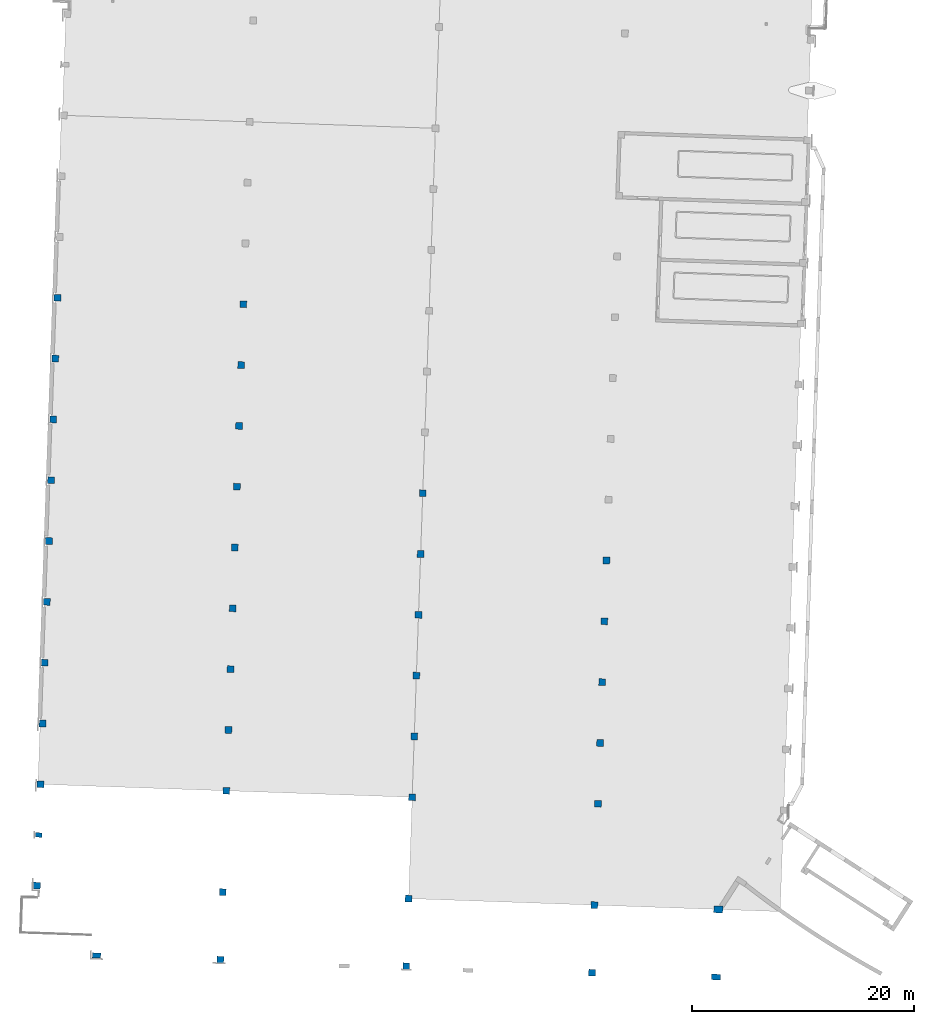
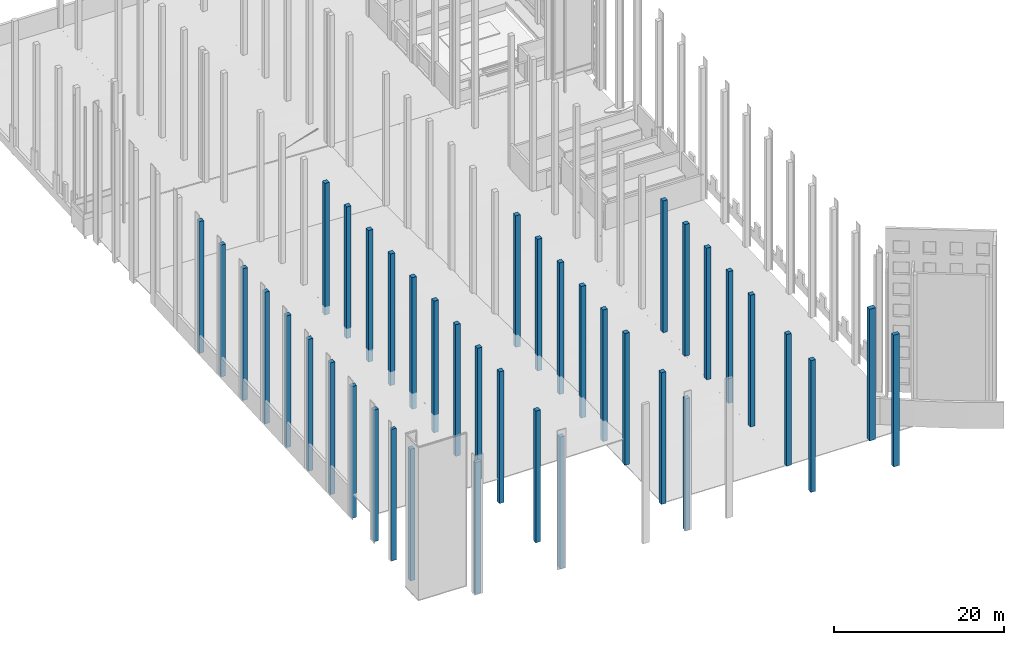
# One storey, part 1 of 44: 40 columns.
"""IFC2X3 building model written with IfcOpenShell, lengths in feet."""

from ifc_helpers import new_model, entity, si_unit, converted_unit, derived_unit, direction, frame, frame_2d, origin, origin_2d_with_axis, place, context, subcontext, project, spatial, rectangle, extrude, source, transform, mapped, material, type_object, type_shapes, element, save


model = new_model("IFC2X3")

# Units and contexts
model_context = context("Model", 3, precision=0.0001, world=origin(), true_north=direction((0.999390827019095, 0.0348994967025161)))
body_context = subcontext(model_context, "Body", "Model", "MODEL_VIEW")
ifc_project = project(units=[converted_unit("LENGTHUNIT", "FOOT", entity("IfcRatioMeasure", 0.3048), si_unit("LENGTHUNIT", "METRE"), dimensions=[1, 0, 0, 0, 0, 0, 0]), converted_unit("AREAUNIT", "SQUARE FOOT", entity("IfcRatioMeasure", 0.09290304), si_unit("AREAUNIT", "SQUARE_METRE"), dimensions=[2, 0, 0, 0, 0, 0, 0]), converted_unit("VOLUMEUNIT", "CUBIC FOOT", entity("IfcRatioMeasure", 0.028316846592), si_unit("VOLUMEUNIT", "CUBIC_METRE"), dimensions=[3, 0, 0, 0, 0, 0, 0]), converted_unit("PLANEANGLEUNIT", "DEGREE", entity("IfcRatioMeasure", 0.0174532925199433), si_unit("PLANEANGLEUNIT", "RADIAN"), dimensions=[0, 0, 0, 0, 0, 0, 0]), si_unit("MASSUNIT", "GRAM", prefix="KILO"), si_unit("TIMEUNIT", "SECOND"), si_unit("FREQUENCYUNIT", "HERTZ"), si_unit("THERMODYNAMICTEMPERATUREUNIT", "DEGREE_CELSIUS"), derived_unit("THERMALTRANSMITTANCEUNIT", [(si_unit("MASSUNIT", "GRAM", prefix="KILO"), 1), (si_unit("THERMODYNAMICTEMPERATUREUNIT", "KELVIN"), -1), (si_unit("TIMEUNIT", "SECOND"), -3)]), derived_unit("VOLUMETRICFLOWRATEUNIT", [(si_unit("LENGTHUNIT", "METRE"), 3), (si_unit("TIMEUNIT", "SECOND"), -1)]), si_unit("ELECTRICCURRENTUNIT", "AMPERE"), si_unit("ELECTRICVOLTAGEUNIT", "VOLT"), si_unit("POWERUNIT", "WATT"), si_unit("FORCEUNIT", "NEWTON"), si_unit("ILLUMINANCEUNIT", "LUX"), si_unit("LUMINOUSFLUXUNIT", "LUMEN"), si_unit("LUMINOUSINTENSITYUNIT", "CANDELA"), derived_unit("USERDEFINED", [(si_unit("MASSUNIT", "GRAM", prefix="KILO"), -1), (si_unit("LENGTHUNIT", "METRE"), -2), (si_unit("TIMEUNIT", "SECOND"), 3), (si_unit("LUMINOUSFLUXUNIT", "LUMEN"), 1)]), derived_unit("LINEARVELOCITYUNIT", [(si_unit("LENGTHUNIT", "METRE"), 1), (si_unit("TIMEUNIT", "SECOND"), -1)]), si_unit("PRESSUREUNIT", "PASCAL"), derived_unit("USERDEFINED", [(si_unit("LENGTHUNIT", "METRE"), -2), (si_unit("MASSUNIT", "GRAM", prefix="KILO"), 1), (si_unit("TIMEUNIT", "SECOND"), -2)])], contexts=[model_context])

# Site, building, storey
site_placement = place(None, frame((892.518771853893, 322.38689265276, 0.00393700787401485), z_axis=(0.0, 0.0, 1.0), x_axis=(0.0348994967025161, 0.999390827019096, 0.0)))
site = spatial("IfcSite", under=ifc_project, at=site_placement, Name="Default", CompositionType="ELEMENT")
building_placement = place(site_placement, origin())
building = spatial("IfcBuilding", under=site, at=building_placement, CompositionType="ELEMENT")
storey_placement = place(building_placement, frame((0.0, 0.0, 544.75)))
storey = spatial("IfcBuildingStorey", under=building, at=storey_placement, Name="Exist Garage - Ground Level", CompositionType="ELEMENT", Elevation=544.75)

# Columns
ifc_material = material(Name="Concrete - Cast-in-Place Concrete")
column_type_1 = type_object("IfcColumnType", Name="24 x 24", PredefinedType="COLUMN", material=ifc_material)
shared_shape_1 = source(origin(), body_context, "Body", "SweptSolid", [
    extrude(rectangle(XDim=2.0, YDim=2.0, at=origin_2d_with_axis()), frame((3.92725423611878, 456.76395347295, 544.75), z_axis=(0.0, 0.0, 1.0), x_axis=(0.0, -1.0, 0.0)), (0.0, 0.0, 1.0), 62.25),
])
type_shapes(column_type_1, [shared_shape_1])
column_1_placement = place(storey_placement, frame((0.0, 0.0, -544.75)))
element("IfcColumn", 1, at=column_1_placement, inside=storey, type_object=column_type_1, material=ifc_material, Name="Concrete-Square-Column:24 x 24", ObjectType="24 x 24", context=body_context, shape_type="MappedRepresentation", body=[
    mapped(shared_shape_1, transform((0.0, 0.0, 0.0), scale=1.0)),
])
column_type_2 = type_object("IfcColumnType", Name="24 x 24", PredefinedType="COLUMN", material=ifc_material)
shared_shape_2 = source(origin(), body_context, "Body", "SweptSolid", [
    extrude(rectangle(XDim=2.0, YDim=2.0, at=origin_2d_with_axis()), frame((-14.0727457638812, 456.76395347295, 544.75), z_axis=(0.0, 0.0, 1.0), x_axis=(0.0, -1.0, 0.0)), (0.0, 0.0, 1.0), 62.25),
])
type_shapes(column_type_2, [shared_shape_2])
column_2_placement = place(storey_placement, frame((0.0, 0.0, -544.75)))
element("IfcColumn", 2, at=column_2_placement, inside=storey, type_object=column_type_2, material=ifc_material, Name="Concrete-Square-Column:24 x 24", ObjectType="24 x 24", context=body_context, shape_type="MappedRepresentation", body=[
    mapped(shared_shape_2, transform((0.0, 0.0, 0.0), scale=1.0)),
])
column_type_3 = type_object("IfcColumnType", Name="24 x 24", PredefinedType="COLUMN", material=ifc_material)
shared_shape_3 = source(origin(), body_context, "Body", "SweptSolid", [
    extrude(rectangle(XDim=2.0, YDim=2.0, at=origin_2d_with_axis()), frame((-32.0727457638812, 456.763953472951, 544.75), z_axis=(0.0, 0.0, 1.0), x_axis=(0.0, -1.0, 0.0)), (0.0, 0.0, 1.0), 62.25),
])
type_shapes(column_type_3, [shared_shape_3])
column_3_placement = place(storey_placement, frame((0.0, 0.0, -544.75)))
element("IfcColumn", 3, at=column_3_placement, inside=storey, type_object=column_type_3, material=ifc_material, Name="Concrete-Square-Column:24 x 24", ObjectType="24 x 24", context=body_context, shape_type="MappedRepresentation", body=[
    mapped(shared_shape_3, transform((0.0, 0.0, 0.0), scale=1.0)),
])
column_type_4 = type_object("IfcColumnType", Name="24 x 24", PredefinedType="COLUMN", material=ifc_material)
shared_shape_4 = source(origin(), body_context, "Body", "SweptSolid", [
    extrude(rectangle(XDim=2.0, YDim=2.0, at=origin_2d_with_axis()), frame((-50.0727457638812, 456.763953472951, 544.75), z_axis=(0.0, 0.0, 1.0), x_axis=(0.0, -1.0, 0.0)), (0.0, 0.0, 1.0), 62.25),
])
type_shapes(column_type_4, [shared_shape_4])
column_4_placement = place(storey_placement, frame((0.0, 0.0, -544.75)))
element("IfcColumn", 4, at=column_4_placement, inside=storey, type_object=column_type_4, material=ifc_material, Name="Concrete-Square-Column:24 x 24", ObjectType="24 x 24", context=body_context, shape_type="MappedRepresentation", body=[
    mapped(shared_shape_4, transform((0.0, 0.0, 0.0), scale=1.0)),
])
column_type_5 = type_object("IfcColumnType", Name="24 x 24", PredefinedType="COLUMN", material=ifc_material)
shared_shape_5 = source(origin(), body_context, "Body", "SweptSolid", [
    extrude(rectangle(XDim=2.0, YDim=2.0, at=origin_2d_with_axis()), frame((-68.0727457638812, 456.763953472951, 544.75), z_axis=(0.0, 0.0, 1.0), x_axis=(0.0, -1.0, 0.0)), (0.0, 0.0, 1.0), 62.25),
])
type_shapes(column_type_5, [shared_shape_5])
column_5_placement = place(storey_placement, frame((0.0, 0.0, -544.75)))
element("IfcColumn", 5, at=column_5_placement, inside=storey, type_object=column_type_5, material=ifc_material, Name="Concrete-Square-Column:24 x 24", ObjectType="24 x 24", context=body_context, shape_type="MappedRepresentation", body=[
    mapped(shared_shape_5, transform((0.0, 0.0, 0.0), scale=1.0)),
])
column_type_6 = type_object("IfcColumnType", Name="24 x 24", PredefinedType="COLUMN", material=ifc_material)
shared_shape_6 = source(origin(), body_context, "Body", "SweptSolid", [
    extrude(rectangle(XDim=2.0, YDim=2.0, at=origin_2d_with_axis()), frame((-86.0727457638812, 456.763953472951, 544.75), z_axis=(0.0, 0.0, 1.0), x_axis=(0.0, -1.0, 0.0)), (0.0, 0.0, 1.0), 62.25),
])
type_shapes(column_type_6, [shared_shape_6])
column_6_placement = place(storey_placement, frame((0.0, 0.0, -544.75)))
element("IfcColumn", 6, at=column_6_placement, inside=storey, type_object=column_type_6, material=ifc_material, Name="Concrete-Square-Column:24 x 24", ObjectType="24 x 24", context=body_context, shape_type="MappedRepresentation", body=[
    mapped(shared_shape_6, transform((0.0, 0.0, 0.0), scale=1.0)),
])
column_type_7 = type_object("IfcColumnType", Name="24 x 24", PredefinedType="COLUMN", material=ifc_material)
shared_shape_7 = source(origin(), body_context, "Body", "SweptSolid", [
    extrude(rectangle(XDim=2.0, YDim=2.0, at=origin_2d_with_axis()), frame((-104.072745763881, 456.763953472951, 544.75), z_axis=(0.0, 0.0, 1.0), x_axis=(0.0, -1.0, 0.0)), (0.0, 0.0, 1.0), 62.25),
])
type_shapes(column_type_7, [shared_shape_7])
column_7_placement = place(storey_placement, frame((0.0, 0.0, -544.75)))
element("IfcColumn", 7, at=column_7_placement, inside=storey, type_object=column_type_7, material=ifc_material, Name="Concrete-Square-Column:24 x 24", ObjectType="24 x 24", context=body_context, shape_type="MappedRepresentation", body=[
    mapped(shared_shape_7, transform((0.0, 0.0, 0.0), scale=1.0)),
])
column_type_8 = type_object("IfcColumnType", Name="24 x 24", PredefinedType="COLUMN", material=ifc_material)
shared_shape_8 = source(origin(), body_context, "Body", "SweptSolid", [
    extrude(rectangle(XDim=2.0, YDim=2.0, at=origin_2d_with_axis()), frame((-122.072745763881, 456.763953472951, 544.75), z_axis=(0.0, 0.0, 1.0), x_axis=(0.0, -1.0, 0.0)), (0.0, 0.0, 1.0), 62.25),
])
type_shapes(column_type_8, [shared_shape_8])
column_8_placement = place(storey_placement, frame((0.0, 0.0, -544.75)))
element("IfcColumn", 8, at=column_8_placement, inside=storey, type_object=column_type_8, material=ifc_material, Name="Concrete-Square-Column:24 x 24", ObjectType="24 x 24", context=body_context, shape_type="MappedRepresentation", body=[
    mapped(shared_shape_8, transform((0.0, 0.0, 0.0), scale=1.0)),
])
column_type_9 = type_object("IfcColumnType", Name="24 x 24", PredefinedType="COLUMN", material=ifc_material)
shared_shape_9 = source(origin(), body_context, "Body", "SweptSolid", [
    extrude(rectangle(XDim=2.0, YDim=2.0, at=origin_2d_with_axis()), frame((-140.072745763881, 456.763953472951, 544.75), z_axis=(0.0, 0.0, 1.0), x_axis=(0.0, -1.0, 0.0)), (0.0, 0.0, 1.0), 62.25),
])
type_shapes(column_type_9, [shared_shape_9])
column_9_placement = place(storey_placement, frame((0.0, 0.0, -544.75)))
element("IfcColumn", 9, at=column_9_placement, inside=storey, type_object=column_type_9, material=ifc_material, Name="Concrete-Square-Column:24 x 24", ObjectType="24 x 24", context=body_context, shape_type="MappedRepresentation", body=[
    mapped(shared_shape_9, transform((0.0, 0.0, 0.0), scale=1.0)),
])
column_type_10 = type_object("IfcColumnType", Name="16 x 24", PredefinedType="COLUMN", material=ifc_material)
shared_shape_10 = source(origin(), body_context, "Body", "SweptSolid", [
    extrude(rectangle(XDim=2.0, YDim=1.33333333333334, at=origin_2d_with_axis()), frame((-155.072745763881, 456.763953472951, 544.75), z_axis=(0.0, 0.0, 1.0), x_axis=(0.0, -1.0, 0.0)), (0.0, 0.0, 1.0), 62.25),
])
type_shapes(column_type_10, [shared_shape_10])
column_10_placement = place(storey_placement, frame((0.0, 0.0, -544.75)))
element("IfcColumn", 10, at=column_10_placement, inside=storey, type_object=column_type_10, material=ifc_material, Name="Concrete-Rectangular-Column:16 x 24", ObjectType="16 x 24", context=body_context, shape_type="MappedRepresentation", body=[
    mapped(shared_shape_10, transform((0.0, 0.0, 0.0), scale=1.0)),
])
column_type_11 = type_object("IfcColumnType", Name="24 x 24", PredefinedType="COLUMN", material=ifc_material)
shared_shape_11 = source(origin(), body_context, "Body", "SweptSolid", [
    extrude(rectangle(XDim=2.0, YDim=2.0, at=origin_2d_with_axis()), frame((-170.072745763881, 456.763953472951, 544.75), z_axis=(0.0, 0.0, 1.0), x_axis=(0.0, -1.0, 0.0)), (0.0, 0.0, 1.0), 62.25),
])
type_shapes(column_type_11, [shared_shape_11])
column_11_placement = place(storey_placement, frame((0.0, 0.0, -544.75)))
element("IfcColumn", 11, at=column_11_placement, inside=storey, type_object=column_type_11, material=ifc_material, Name="Concrete-Square-Column:24 x 24", ObjectType="24 x 24", context=body_context, shape_type="MappedRepresentation", body=[
    mapped(shared_shape_11, transform((0.0, 0.0, 0.0), scale=1.0)),
])
column_type_12 = type_object("IfcColumnType", Name="24 x 24", PredefinedType="COLUMN", material=ifc_material)
shared_shape_12 = source(origin(), body_context, "Body", "SweptSolid", [
    extrude(rectangle(XDim=2.0, YDim=2.0, at=origin_2d_with_axis()), frame((3.92725423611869, 401.76395347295, 544.75), z_axis=(0.0, 0.0, 1.0), x_axis=(0.0, -1.0, 0.0)), (0.0, 0.0, 1.0), 62.25),
])
type_shapes(column_type_12, [shared_shape_12])
column_12_placement = place(storey_placement, frame((0.0, 0.0, -544.75)))
element("IfcColumn", 12, at=column_12_placement, inside=storey, type_object=column_type_12, material=ifc_material, Name="Concrete-Square-Column:24 x 24", ObjectType="24 x 24", context=body_context, shape_type="MappedRepresentation", body=[
    mapped(shared_shape_12, transform((0.0, 0.0, 0.0), scale=1.0)),
])
column_type_13 = type_object("IfcColumnType", Name="24 x 24", PredefinedType="COLUMN", material=ifc_material)
shared_shape_13 = source(origin(), body_context, "Body", "SweptSolid", [
    extrude(rectangle(XDim=2.0, YDim=2.0, at=origin_2d_with_axis()), frame((-14.0727457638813, 401.76395347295, 544.75), z_axis=(0.0, 0.0, 1.0), x_axis=(0.0, -1.0, 0.0)), (0.0, 0.0, 1.0), 62.25),
])
type_shapes(column_type_13, [shared_shape_13])
column_13_placement = place(storey_placement, frame((0.0, 0.0, -544.75)))
element("IfcColumn", 13, at=column_13_placement, inside=storey, type_object=column_type_13, material=ifc_material, Name="Concrete-Square-Column:24 x 24", ObjectType="24 x 24", context=body_context, shape_type="MappedRepresentation", body=[
    mapped(shared_shape_13, transform((0.0, 0.0, 0.0), scale=1.0)),
])
column_type_14 = type_object("IfcColumnType", Name="24 x 24", PredefinedType="COLUMN", material=ifc_material)
shared_shape_14 = source(origin(), body_context, "Body", "SweptSolid", [
    extrude(rectangle(XDim=2.0, YDim=2.0, at=origin_2d_with_axis()), frame((-32.0727457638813, 401.763953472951, 544.75), z_axis=(0.0, 0.0, 1.0), x_axis=(0.0, -1.0, 0.0)), (0.0, 0.0, 1.0), 62.25),
])
type_shapes(column_type_14, [shared_shape_14])
column_14_placement = place(storey_placement, frame((0.0, 0.0, -544.75)))
element("IfcColumn", 14, at=column_14_placement, inside=storey, type_object=column_type_14, material=ifc_material, Name="Concrete-Square-Column:24 x 24", ObjectType="24 x 24", context=body_context, shape_type="MappedRepresentation", body=[
    mapped(shared_shape_14, transform((0.0, 0.0, 0.0), scale=1.0)),
])
column_type_15 = type_object("IfcColumnType", Name="24 x 24", PredefinedType="COLUMN", material=ifc_material)
shared_shape_15 = source(origin(), body_context, "Body", "SweptSolid", [
    extrude(rectangle(XDim=2.0, YDim=2.0, at=origin_2d_with_axis()), frame((-50.0727457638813, 401.763953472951, 544.75), z_axis=(0.0, 0.0, 1.0), x_axis=(0.0, -1.0, 0.0)), (0.0, 0.0, 1.0), 62.25),
])
type_shapes(column_type_15, [shared_shape_15])
column_15_placement = place(storey_placement, frame((0.0, 0.0, -544.75)))
element("IfcColumn", 15, at=column_15_placement, inside=storey, type_object=column_type_15, material=ifc_material, Name="Concrete-Square-Column:24 x 24", ObjectType="24 x 24", context=body_context, shape_type="MappedRepresentation", body=[
    mapped(shared_shape_15, transform((0.0, 0.0, 0.0), scale=1.0)),
])
column_type_16 = type_object("IfcColumnType", Name="24 x 24", PredefinedType="COLUMN", material=ifc_material)
shared_shape_16 = source(origin(), body_context, "Body", "SweptSolid", [
    extrude(rectangle(XDim=2.0, YDim=2.0, at=origin_2d_with_axis()), frame((-68.0727457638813, 401.763953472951, 544.75), z_axis=(0.0, 0.0, 1.0), x_axis=(0.0, -1.0, 0.0)), (0.0, 0.0, 1.0), 62.25),
])
type_shapes(column_type_16, [shared_shape_16])
column_16_placement = place(storey_placement, frame((0.0, 0.0, -544.75)))
element("IfcColumn", 16, at=column_16_placement, inside=storey, type_object=column_type_16, material=ifc_material, Name="Concrete-Square-Column:24 x 24", ObjectType="24 x 24", context=body_context, shape_type="MappedRepresentation", body=[
    mapped(shared_shape_16, transform((0.0, 0.0, 0.0), scale=1.0)),
])
column_type_17 = type_object("IfcColumnType", Name="24 x 24", PredefinedType="COLUMN", material=ifc_material)
shared_shape_17 = source(origin(), body_context, "Body", "SweptSolid", [
    extrude(rectangle(XDim=2.0, YDim=2.0, at=origin_2d_with_axis()), frame((-86.0727457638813, 401.763953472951, 544.75), z_axis=(0.0, 0.0, 1.0), x_axis=(0.0, -1.0, 0.0)), (0.0, 0.0, 1.0), 62.25),
])
type_shapes(column_type_17, [shared_shape_17])
column_17_placement = place(storey_placement, frame((0.0, 0.0, -544.75)))
element("IfcColumn", 17, at=column_17_placement, inside=storey, type_object=column_type_17, material=ifc_material, Name="Concrete-Square-Column:24 x 24", ObjectType="24 x 24", context=body_context, shape_type="MappedRepresentation", body=[
    mapped(shared_shape_17, transform((0.0, 0.0, 0.0), scale=1.0)),
])
column_type_18 = type_object("IfcColumnType", Name="24 x 24", PredefinedType="COLUMN", material=ifc_material)
shared_shape_18 = source(origin(), body_context, "Body", "SweptSolid", [
    extrude(rectangle(XDim=2.0, YDim=2.0, at=origin_2d_with_axis()), frame((-104.072745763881, 401.763953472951, 544.75), z_axis=(0.0, 0.0, 1.0), x_axis=(0.0, -1.0, 0.0)), (0.0, 0.0, 1.0), 62.25),
])
type_shapes(column_type_18, [shared_shape_18])
column_18_placement = place(storey_placement, frame((0.0, 0.0, -544.75)))
element("IfcColumn", 18, at=column_18_placement, inside=storey, type_object=column_type_18, material=ifc_material, Name="Concrete-Square-Column:24 x 24", ObjectType="24 x 24", context=body_context, shape_type="MappedRepresentation", body=[
    mapped(shared_shape_18, transform((0.0, 0.0, 0.0), scale=1.0)),
])
column_type_19 = type_object("IfcColumnType", Name="24 x 24", PredefinedType="COLUMN", material=ifc_material)
shared_shape_19 = source(origin(), body_context, "Body", "SweptSolid", [
    extrude(rectangle(XDim=2.0, YDim=2.0, at=origin_2d_with_axis()), frame((-122.072745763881, 401.763953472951, 544.75), z_axis=(0.0, 0.0, 1.0), x_axis=(0.0, -1.0, 0.0)), (0.0, 0.0, 1.0), 62.25),
])
type_shapes(column_type_19, [shared_shape_19])
column_19_placement = place(storey_placement, frame((0.0, 0.0, -544.75)))
element("IfcColumn", 19, at=column_19_placement, inside=storey, type_object=column_type_19, material=ifc_material, Name="Concrete-Square-Column:24 x 24", ObjectType="24 x 24", context=body_context, shape_type="MappedRepresentation", body=[
    mapped(shared_shape_19, transform((0.0, 0.0, 0.0), scale=1.0)),
])
column_type_20 = type_object("IfcColumnType", Name="24 x 24", PredefinedType="COLUMN", material=ifc_material)
shared_shape_20 = source(origin(), body_context, "Body", "SweptSolid", [
    extrude(rectangle(XDim=2.0, YDim=2.0, at=origin_2d_with_axis()), frame((-140.072745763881, 401.763953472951, 544.75), z_axis=(0.0, 0.0, 1.0), x_axis=(0.0, -1.0, 0.0)), (0.0, 0.0, 1.0), 62.25),
])
type_shapes(column_type_20, [shared_shape_20])
column_20_placement = place(storey_placement, frame((0.0, 0.0, -544.75)))
element("IfcColumn", 20, at=column_20_placement, inside=storey, type_object=column_type_20, material=ifc_material, Name="Concrete-Square-Column:24 x 24", ObjectType="24 x 24", context=body_context, shape_type="MappedRepresentation", body=[
    mapped(shared_shape_20, transform((0.0, 0.0, 0.0), scale=1.0)),
])
column_type_21 = type_object("IfcColumnType", Name="24 x 24", PredefinedType="COLUMN", material=ifc_material)
shared_shape_21 = source(origin(), body_context, "Body", "SweptSolid", [
    extrude(rectangle(XDim=2.0, YDim=2.0, at=origin_2d_with_axis()), frame((-170.072745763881, 401.763953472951, 544.75), z_axis=(0.0, 0.0, 1.0), x_axis=(0.0, -1.0, 0.0)), (0.0, 0.0, 1.0), 62.25),
])
type_shapes(column_type_21, [shared_shape_21])
column_21_placement = place(storey_placement, frame((0.0, 0.0, -544.75)))
element("IfcColumn", 21, at=column_21_placement, inside=storey, type_object=column_type_21, material=ifc_material, Name="Concrete-Square-Column:24 x 24", ObjectType="24 x 24", context=body_context, shape_type="MappedRepresentation", body=[
    mapped(shared_shape_21, transform((0.0, 0.0, 0.0), scale=1.0)),
])
column_type_22 = type_object("IfcColumnType", Name="24 x 24", PredefinedType="COLUMN", material=ifc_material)
shared_shape_22 = source(origin(), body_context, "Body", "SweptSolid", [
    extrude(rectangle(XDim=2.0, YDim=2.0, at=origin_2d_with_axis()), frame((-190.072745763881, 401.763953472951, 544.75), z_axis=(0.0, 0.0, 1.0), x_axis=(0.0, -1.0, 0.0)), (0.0, 0.0, 1.0), 62.25),
])
type_shapes(column_type_22, [shared_shape_22])
column_22_placement = place(storey_placement, frame((0.0, 0.0, -544.75)))
element("IfcColumn", 22, at=column_22_placement, inside=storey, type_object=column_type_22, material=ifc_material, Name="Concrete-Square-Column:24 x 24", ObjectType="24 x 24", context=body_context, shape_type="MappedRepresentation", body=[
    mapped(shared_shape_22, transform((0.0, 0.0, 0.0), scale=1.0)),
])
column_type_23 = type_object("IfcColumnType", Name="18 x 30", PredefinedType="COLUMN", material=ifc_material)
shared_shape_23 = source(origin(), body_context, "Body", "SweptSolid", [
    extrude(rectangle(XDim=2.5, YDim=1.5, at=origin_2d_with_axis()), frame((-190.072745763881, 438.430756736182, 544.75), z_axis=(0.0, 0.0, 1.0), x_axis=(0.0, -1.0, 0.0)), (0.0, 0.0, 1.0), 62.25),
])
type_shapes(column_type_23, [shared_shape_23])
column_23_placement = place(storey_placement, frame((0.0, 0.0, -544.75)))
element("IfcColumn", 23, at=column_23_placement, inside=storey, type_object=column_type_23, material=ifc_material, Name="Concrete-Rectangular-Column:18 x 30", ObjectType="18 x 30", context=body_context, shape_type="MappedRepresentation", body=[
    mapped(shared_shape_23, transform((0.0, 0.0, 0.0), scale=1.0)),
])
column_type_24 = type_object("IfcColumnType", Name="24 x 24", PredefinedType="COLUMN", material=ifc_material)
shared_shape_24 = source(origin(), body_context, "Body", "SweptSolid", [
    extrude(rectangle(XDim=2.0, YDim=2.0, at=origin_2d_with_axis()), frame((-50.0727457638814, 346.763953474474, 544.75), z_axis=(0.0, 0.0, 1.0), x_axis=(0.0, -1.0, 0.0)), (0.0, 0.0, 1.0), 62.25),
])
type_shapes(column_type_24, [shared_shape_24])
column_24_placement = place(storey_placement, frame((0.0, 0.0, -544.75)))
element("IfcColumn", 24, at=column_24_placement, inside=storey, type_object=column_type_24, material=ifc_material, Name="Concrete-Square-Column:24 x 24", ObjectType="24 x 24", context=body_context, shape_type="MappedRepresentation", body=[
    mapped(shared_shape_24, transform((0.0, 0.0, 0.0), scale=1.0)),
])
column_type_25 = type_object("IfcColumnType", Name="24 x 24", PredefinedType="COLUMN", material=ifc_material)
shared_shape_25 = source(origin(), body_context, "Body", "SweptSolid", [
    extrude(rectangle(XDim=2.0, YDim=2.0, at=origin_2d_with_axis()), frame((-68.0727457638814, 346.763953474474, 544.75), z_axis=(0.0, 0.0, 1.0), x_axis=(0.0, -1.0, 0.0)), (0.0, 0.0, 1.0), 62.25),
])
type_shapes(column_type_25, [shared_shape_25])
column_25_placement = place(storey_placement, frame((0.0, 0.0, -544.75)))
element("IfcColumn", 25, at=column_25_placement, inside=storey, type_object=column_type_25, material=ifc_material, Name="Concrete-Square-Column:24 x 24", ObjectType="24 x 24", context=body_context, shape_type="MappedRepresentation", body=[
    mapped(shared_shape_25, transform((0.0, 0.0, 0.0), scale=1.0)),
])
column_type_26 = type_object("IfcColumnType", Name="24 x 24", PredefinedType="COLUMN", material=ifc_material)
shared_shape_26 = source(origin(), body_context, "Body", "SweptSolid", [
    extrude(rectangle(XDim=2.0, YDim=2.0, at=origin_2d_with_axis()), frame((-86.0727457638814, 346.763953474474, 544.75), z_axis=(0.0, 0.0, 1.0), x_axis=(0.0, -1.0, 0.0)), (0.0, 0.0, 1.0), 62.25),
])
type_shapes(column_type_26, [shared_shape_26])
column_26_placement = place(storey_placement, frame((0.0, 0.0, -544.75)))
element("IfcColumn", 26, at=column_26_placement, inside=storey, type_object=column_type_26, material=ifc_material, Name="Concrete-Square-Column:24 x 24", ObjectType="24 x 24", context=body_context, shape_type="MappedRepresentation", body=[
    mapped(shared_shape_26, transform((0.0, 0.0, 0.0), scale=1.0)),
])
column_type_27 = type_object("IfcColumnType", Name="24 x 24", PredefinedType="COLUMN", material=ifc_material)
shared_shape_27 = source(origin(), body_context, "Body", "SweptSolid", [
    extrude(rectangle(XDim=2.0, YDim=2.0, at=origin_2d_with_axis()), frame((-104.072745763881, 346.763953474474, 544.75), z_axis=(0.0, 0.0, 1.0), x_axis=(0.0, -1.0, 0.0)), (0.0, 0.0, 1.0), 62.25),
])
type_shapes(column_type_27, [shared_shape_27])
column_27_placement = place(storey_placement, frame((0.0, 0.0, -544.75)))
element("IfcColumn", 27, at=column_27_placement, inside=storey, type_object=column_type_27, material=ifc_material, Name="Concrete-Square-Column:24 x 24", ObjectType="24 x 24", context=body_context, shape_type="MappedRepresentation", body=[
    mapped(shared_shape_27, transform((0.0, 0.0, 0.0), scale=1.0)),
])
column_type_28 = type_object("IfcColumnType", Name="24 x 24", PredefinedType="COLUMN", material=ifc_material)
shared_shape_28 = source(origin(), body_context, "Body", "SweptSolid", [
    extrude(rectangle(XDim=2.0, YDim=2.0, at=origin_2d_with_axis()), frame((-122.072745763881, 346.763953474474, 544.75), z_axis=(0.0, 0.0, 1.0), x_axis=(0.0, -1.0, 0.0)), (0.0, 0.0, 1.0), 62.25),
])
type_shapes(column_type_28, [shared_shape_28])
column_28_placement = place(storey_placement, frame((0.0, 0.0, -544.75)))
element("IfcColumn", 28, at=column_28_placement, inside=storey, type_object=column_type_28, material=ifc_material, Name="Concrete-Square-Column:24 x 24", ObjectType="24 x 24", context=body_context, shape_type="MappedRepresentation", body=[
    mapped(shared_shape_28, transform((0.0, 0.0, 0.0), scale=1.0)),
])
column_type_29 = type_object("IfcColumnType", Name="24 x 24", PredefinedType="COLUMN", material=ifc_material)
shared_shape_29 = source(origin(), body_context, "Body", "SweptSolid", [
    extrude(rectangle(XDim=2.0, YDim=2.0, at=origin_2d_with_axis()), frame((-140.072745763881, 346.763953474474, 544.75), z_axis=(0.0, 0.0, 1.0), x_axis=(0.0, -1.0, 0.0)), (0.0, 0.0, 1.0), 62.25),
])
type_shapes(column_type_29, [shared_shape_29])
column_29_placement = place(storey_placement, frame((0.0, 0.0, -544.75)))
element("IfcColumn", 29, at=column_29_placement, inside=storey, type_object=column_type_29, material=ifc_material, Name="Concrete-Square-Column:24 x 24", ObjectType="24 x 24", context=body_context, shape_type="MappedRepresentation", body=[
    mapped(shared_shape_29, transform((0.0, 0.0, 0.0), scale=1.0)),
])
column_type_30 = type_object("IfcColumnType", Name="24 x 24", PredefinedType="COLUMN", material=ifc_material)
shared_shape_30 = source(origin(), body_context, "Body", "SweptSolid", [
    extrude(rectangle(XDim=2.0, YDim=2.0, at=origin_2d_with_axis()), frame((-170.072745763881, 346.763953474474, 544.75), z_axis=(0.0, 0.0, 1.0), x_axis=(0.0, -1.0, 0.0)), (0.0, 0.0, 1.0), 62.25),
])
type_shapes(column_type_30, [shared_shape_30])
column_30_placement = place(storey_placement, frame((0.0, 0.0, -544.75)))
element("IfcColumn", 30, at=column_30_placement, inside=storey, type_object=column_type_30, material=ifc_material, Name="Concrete-Square-Column:24 x 24", ObjectType="24 x 24", context=body_context, shape_type="MappedRepresentation", body=[
    mapped(shared_shape_30, transform((0.0, 0.0, 0.0), scale=1.0)),
])
column_type_31 = type_object("IfcColumnType", Name="24 x 24", PredefinedType="COLUMN", material=ifc_material)
shared_shape_31 = source(origin(), body_context, "Body", "SweptSolid", [
    extrude(rectangle(XDim=2.0, YDim=2.0, at=origin_2d_with_axis()), frame((-190.072745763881, 346.763953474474, 544.75), z_axis=(0.0, 0.0, 1.0), x_axis=(0.0, -1.0, 0.0)), (0.0, 0.0, 1.0), 62.25),
])
type_shapes(column_type_31, [shared_shape_31])
column_31_placement = place(storey_placement, frame((0.0, 0.0, -544.75)))
element("IfcColumn", 31, at=column_31_placement, inside=storey, type_object=column_type_31, material=ifc_material, Name="Concrete-Square-Column:24 x 24", ObjectType="24 x 24", context=body_context, shape_type="MappedRepresentation", body=[
    mapped(shared_shape_31, transform((0.0, 0.0, 0.0), scale=1.0)),
])
column_type_32 = type_object("IfcColumnType", Name="24 x 24", PredefinedType="COLUMN", material=ifc_material)
shared_shape_32 = source(origin(), body_context, "Body", "SweptSolid", [
    extrude(rectangle(XDim=2.0, YDim=2.0, at=origin_2d_with_axis()), frame((-68.0727457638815, 291.763953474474, 544.75), z_axis=(0.0, 0.0, 1.0), x_axis=(0.0, -1.0, 0.0)), (0.0, 0.0, 1.0), 62.25),
])
type_shapes(column_type_32, [shared_shape_32])
column_32_placement = place(storey_placement, frame((0.0, 0.0, -544.75)))
element("IfcColumn", 32, at=column_32_placement, inside=storey, type_object=column_type_32, material=ifc_material, Name="Concrete-Square-Column:24 x 24", ObjectType="24 x 24", context=body_context, shape_type="MappedRepresentation", body=[
    mapped(shared_shape_32, transform((0.0, 0.0, 0.0), scale=1.0)),
])
column_type_33 = type_object("IfcColumnType", Name="24 x 24", PredefinedType="COLUMN", material=ifc_material)
shared_shape_33 = source(origin(), body_context, "Body", "SweptSolid", [
    extrude(rectangle(XDim=2.0, YDim=2.0, at=origin_2d_with_axis()), frame((-86.0727457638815, 291.763953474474, 544.75), z_axis=(0.0, 0.0, 1.0), x_axis=(0.0, -1.0, 0.0)), (0.0, 0.0, 1.0), 62.25),
])
type_shapes(column_type_33, [shared_shape_33])
column_33_placement = place(storey_placement, frame((0.0, 0.0, -544.75)))
element("IfcColumn", 33, at=column_33_placement, inside=storey, type_object=column_type_33, material=ifc_material, Name="Concrete-Square-Column:24 x 24", ObjectType="24 x 24", context=body_context, shape_type="MappedRepresentation", body=[
    mapped(shared_shape_33, transform((0.0, 0.0, 0.0), scale=1.0)),
])
column_type_34 = type_object("IfcColumnType", Name="24 x 24", PredefinedType="COLUMN", material=ifc_material)
shared_shape_34 = source(origin(), body_context, "Body", "SweptSolid", [
    extrude(rectangle(XDim=2.0, YDim=2.0, at=origin_2d_with_axis()), frame((-104.072745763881, 291.763953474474, 544.75), z_axis=(0.0, 0.0, 1.0), x_axis=(0.0, -1.0, 0.0)), (0.0, 0.0, 1.0), 62.25),
])
type_shapes(column_type_34, [shared_shape_34])
column_34_placement = place(storey_placement, frame((0.0, 0.0, -544.75)))
element("IfcColumn", 34, at=column_34_placement, inside=storey, type_object=column_type_34, material=ifc_material, Name="Concrete-Square-Column:24 x 24", ObjectType="24 x 24", context=body_context, shape_type="MappedRepresentation", body=[
    mapped(shared_shape_34, transform((0.0, 0.0, 0.0), scale=1.0)),
])
column_type_35 = type_object("IfcColumnType", Name="24 x 24", PredefinedType="COLUMN", material=ifc_material)
shared_shape_35 = source(origin(), body_context, "Body", "SweptSolid", [
    extrude(rectangle(XDim=2.0, YDim=2.0, at=origin_2d_with_axis()), frame((-122.072745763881, 291.763953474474, 544.75), z_axis=(0.0, 0.0, 1.0), x_axis=(0.0, -1.0, 0.0)), (0.0, 0.0, 1.0), 62.25),
])
type_shapes(column_type_35, [shared_shape_35])
column_35_placement = place(storey_placement, frame((0.0, 0.0, -544.75)))
element("IfcColumn", 35, at=column_35_placement, inside=storey, type_object=column_type_35, material=ifc_material, Name="Concrete-Square-Column:24 x 24", ObjectType="24 x 24", context=body_context, shape_type="MappedRepresentation", body=[
    mapped(shared_shape_35, transform((0.0, 0.0, 0.0), scale=1.0)),
])
column_type_36 = type_object("IfcColumnType", Name="24 x 24", PredefinedType="COLUMN", material=ifc_material)
shared_shape_36 = source(origin(), body_context, "Body", "SweptSolid", [
    extrude(rectangle(XDim=2.0, YDim=2.0, at=origin_2d_with_axis()), frame((-140.072745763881, 291.763953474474, 544.75), z_axis=(0.0, 0.0, 1.0), x_axis=(0.0, -1.0, 0.0)), (0.0, 0.0, 1.0), 62.25),
])
type_shapes(column_type_36, [shared_shape_36])
column_36_placement = place(storey_placement, frame((0.0, 0.0, -544.75)))
element("IfcColumn", 36, at=column_36_placement, inside=storey, type_object=column_type_36, material=ifc_material, Name="Concrete-Square-Column:24 x 24", ObjectType="24 x 24", context=body_context, shape_type="MappedRepresentation", body=[
    mapped(shared_shape_36, transform((0.0, 0.0, 0.0), scale=1.0)),
])
column_type_37 = type_object("IfcColumnType", Name="24 x 24", PredefinedType="COLUMN", material=ifc_material)
shared_shape_37 = source(origin(), body_context, "Body", "SweptSolid", [
    extrude(rectangle(XDim=2.0, YDim=2.0, at=origin_2d_with_axis()), frame((-170.072745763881, 291.763953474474, 544.75), z_axis=(0.0, 0.0, 1.0), x_axis=(0.0, -1.0, 0.0)), (0.0, 0.0, 1.0), 62.25),
])
type_shapes(column_type_37, [shared_shape_37])
column_37_placement = place(storey_placement, frame((0.0, 0.0, -544.75)))
element("IfcColumn", 37, at=column_37_placement, inside=storey, type_object=column_type_37, material=ifc_material, Name="Concrete-Square-Column:24 x 24", ObjectType="24 x 24", context=body_context, shape_type="MappedRepresentation", body=[
    mapped(shared_shape_37, transform((0.0, 0.0, 0.0), scale=1.0)),
])
column_type_38 = type_object("IfcColumnType", Name="24 x 24", PredefinedType="COLUMN", material=ifc_material)
shared_shape_38 = source(origin(), body_context, "Body", "SweptSolid", [
    extrude(rectangle(XDim=2.0, YDim=2.0, at=origin_2d_with_axis()), frame((-190.072745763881, 291.763953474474, 544.75), z_axis=(0.0, 0.0, 1.0), x_axis=(0.0, -1.0, 0.0)), (0.0, 0.0, 1.0), 62.25),
])
type_shapes(column_type_38, [shared_shape_38])
column_38_placement = place(storey_placement, frame((0.0, 0.0, -544.75)))
element("IfcColumn", 38, at=column_38_placement, inside=storey, type_object=column_type_38, material=ifc_material, Name="Concrete-Square-Column:24 x 24", ObjectType="24 x 24", context=body_context, shape_type="MappedRepresentation", body=[
    mapped(shared_shape_38, transform((0.0, 0.0, 0.0), scale=1.0)),
])
column_type_39 = type_object("IfcColumnType", Name="24 x 32", PredefinedType="COLUMN", material=ifc_material)
shared_shape_39 = source(origin(), body_context, "Body", "SweptSolid", [
    extrude(rectangle(XDim=2.66666666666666, YDim=2.0, at=frame_2d((1.4210854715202e-14, 0.0), x_axis=(1.0, 0.0))), frame((-170.072745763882, 255.097396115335, 544.75), z_axis=(0.0, 0.0, 1.0), x_axis=(0.0, -1.0, 0.0)), (0.0, 0.0, 1.0), 62.25),
])
type_shapes(column_type_39, [shared_shape_39])
column_39_placement = place(storey_placement, frame((0.0, 0.0, -544.75)))
element("IfcColumn", 39, at=column_39_placement, inside=storey, type_object=column_type_39, material=ifc_material, Name="Concrete-Rectangular-Column:24 x 32", ObjectType="24 x 32", context=body_context, shape_type="MappedRepresentation", body=[
    mapped(shared_shape_39, transform((0.0, 0.0, 0.0), scale=1.0)),
])
column_type_40 = type_object("IfcColumnType", Name="20 x 32", PredefinedType="COLUMN", material=ifc_material)
shared_shape_40 = source(origin(), body_context, "Body", "SweptSolid", [
    extrude(rectangle(XDim=2.66666666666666, YDim=1.66666666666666, at=origin_2d_with_axis()), frame((-190.072745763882, 255.097396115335, 544.75), z_axis=(0.0, 0.0, 1.0), x_axis=(0.0, -1.0, 0.0)), (0.0, 0.0, 1.0), 62.25),
])
type_shapes(column_type_40, [shared_shape_40])
column_40_placement = place(storey_placement, frame((0.0, 0.0, -544.75)))
element("IfcColumn", 40, at=column_40_placement, inside=storey, type_object=column_type_40, material=ifc_material, Name="Concrete-Rectangular-Column:20 x 32", ObjectType="20 x 32", context=body_context, shape_type="MappedRepresentation", body=[
    mapped(shared_shape_40, transform((0.0, 0.0, 0.0), scale=1.0)),
])

save(model, "model.ifc")
